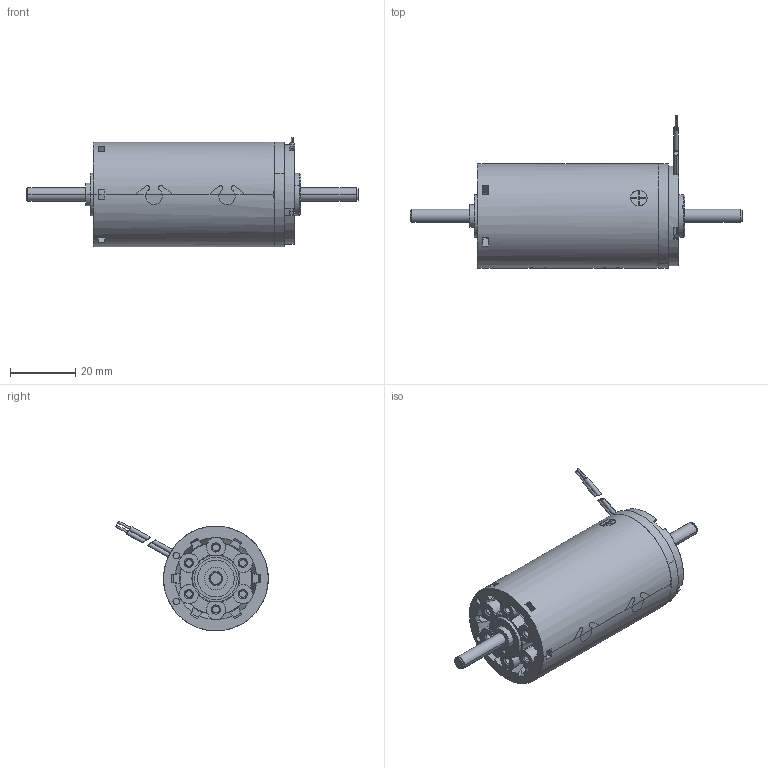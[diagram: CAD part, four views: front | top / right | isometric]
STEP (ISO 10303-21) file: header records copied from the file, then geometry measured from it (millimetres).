
FILE_DESCRIPTION((''),'2;1');
FILE_NAME('353220_AMAX32_GB_15W_KL_2WE_K','2016-10-14T',('mmagvisi'),(''),'CREO PARAMETRIC BY PTC INC, 2016050','CREO PARAMETRIC BY PTC INC, 2016050','');
FILE_SCHEMA(('CONFIG_CONTROL_DESIGN'));
Length unit declared in the file: millimetre
Products named in the file (1): 353220_AMAX32_GB_15W_KL_2WE_K
Bounding box: 101.4 x 46.59 x 33.53 mm (x, y, z)
Volume: 48380 mm3; surface area: 11107.7 mm2
Topology: 2 solids, 2 shells, 458 faces, 1203 edges, 772 vertices
Faces by surface type: cylinder 208, plane 167, cone 52, torus 29, bspline 2
Entity records: 22626 total; most frequent: CARTESIAN_POINT 3591, DIRECTION 2538, ORIENTED_EDGE 2406, PRESENTATION_STYLE_ASSIGNMENT 1660, STYLED_ITEM 1205, CURVE_STYLE 1203, EDGE_CURVE 1203, AXIS2_PLACEMENT_3D 1047
